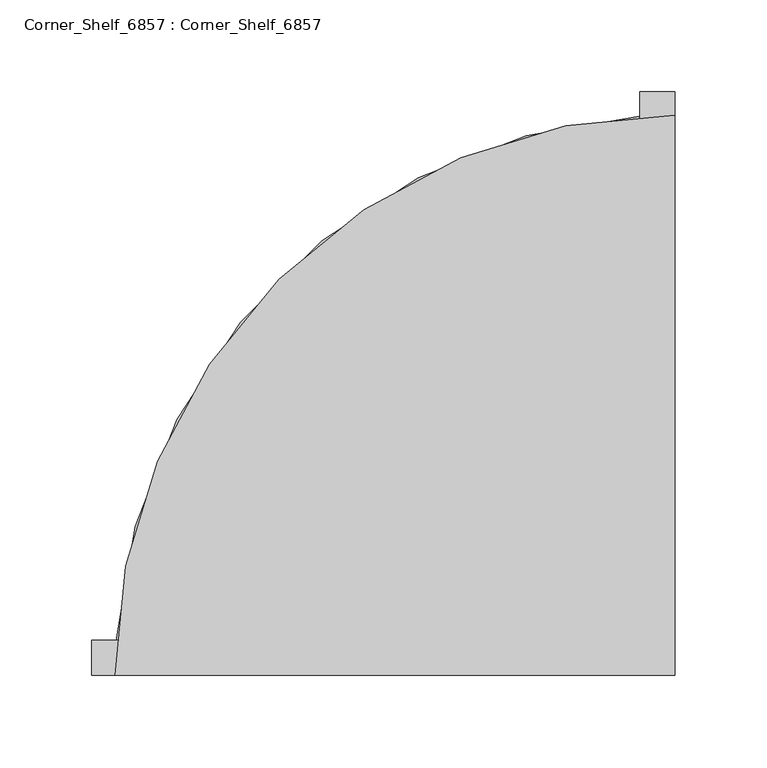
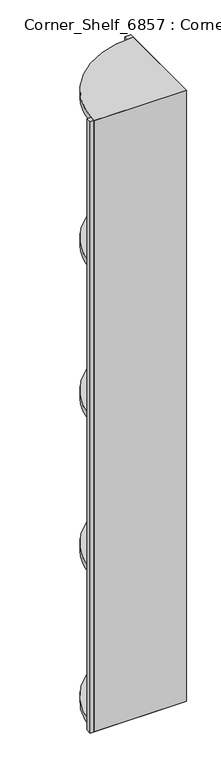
"""IFC4 building model written with IfcOpenShell, lengths in millimetres: furniture geometry, Corner_Shelf_6857 : Corner_Shelf_6857."""

from ifc_helpers import new_model, si_unit, frame, origin, place, context, project, spatial, circle_curve, faceted_brep, source, transform, mapped, element, save
from ifc_brep_helpers import plane_surface, cylinder_surface, advanced_brep


def corner_shelf_6857_corner_shelf_6857_70984909(model_context):
    return source(origin(), model_context, "Body", "SolidModel", [
        advanced_brep(
        [(0.0, 57.15, 2438.4), (0.0, 361.95, 2438.4), (-304.8, 57.15, 2438.4), (0.0, 57.15, 304.8), (0.0, 361.95, 304.8), (-304.8, 57.15, 304.8), (-19.05, 361.354105, 2419.35), (-304.204105, 76.2, 2419.35), (-304.204105, 76.2, 1924.05), (-19.05, 361.354105, 1924.05), (-19.05, 361.354105, 838.2), (-304.204105, 76.2, 838.2), (-304.204105, 76.2, 323.85), (-19.05, 361.354105, 323.85), (-19.05, 361.354105, 1371.6), (-304.204105, 76.2, 1371.6), (-304.204105, 76.2, 857.25), (-19.05, 361.354105, 857.25), (-19.05, 361.354105, 1905.0), (-304.204105, 76.2, 1905.0), (-304.204105, 76.2, 1390.65), (-19.05, 361.354105, 1390.65), (-19.05, 76.2, 2419.35), (-19.05, 76.2, 1924.05), (-19.05, 76.2, 838.2), (-19.05, 76.2, 323.85), (-19.05, 76.2, 1371.6), (-19.05, 76.2, 857.25), (-19.05, 76.2, 1905.0), (-19.05, 76.2, 1390.65)],
        [
            (0, 1),
            (1, 2, circle_curve(frame((0.0, 57.15, 2438.4), z_axis=(0.0, 0.0, 1.0), x_axis=(1.0, 0.0, 0.0)), 304.8)),
            (2, 0),
            (0, 3),
            (3, 4),
            (4, 1),
            (4, 5, circle_curve(frame((0.0, 57.15, 304.8), z_axis=(0.0, 0.0, 1.0), x_axis=(1.0, 0.0, 0.0)), 304.8)),
            (5, 2),
            (6, 7, circle_curve(frame((0.0, 57.15, 2419.35), z_axis=(0.0, 0.0, 1.0), x_axis=(1.0, 0.0, 0.0)), 304.8)),
            (7, 8),
            (8, 9, circle_curve(frame((0.0, 57.15, 1924.05), z_axis=(0.0, 0.0, -1.0), x_axis=(1.0, 0.0, 0.0)), 304.8)),
            (9, 6),
            (10, 11, circle_curve(frame((0.0, 57.15, 838.2), z_axis=(0.0, 0.0, 1.0), x_axis=(1.0, 0.0, 0.0)), 304.8)),
            (11, 12),
            (12, 13, circle_curve(frame((0.0, 57.15, 323.85), z_axis=(0.0, 0.0, -1.0), x_axis=(1.0, 0.0, 0.0)), 304.8)),
            (13, 10),
            (14, 15, circle_curve(frame((0.0, 57.15, 1371.6), z_axis=(0.0, 0.0, 1.0), x_axis=(1.0, 0.0, 0.0)), 304.8)),
            (15, 16),
            (16, 17, circle_curve(frame((0.0, 57.15, 857.25), z_axis=(0.0, 0.0, -1.0), x_axis=(1.0, 0.0, 0.0)), 304.8)),
            (17, 14),
            (18, 19, circle_curve(frame((0.0, 57.15, 1905.0), z_axis=(0.0, 0.0, 1.0), x_axis=(1.0, 0.0, 0.0)), 304.8)),
            (19, 20),
            (20, 21, circle_curve(frame((0.0, 57.15, 1390.65), z_axis=(0.0, 0.0, -1.0), x_axis=(1.0, 0.0, 0.0)), 304.8)),
            (21, 18),
            (5, 3),
            (22, 7),
            (6, 22),
            (22, 23),
            (23, 8),
            (9, 23),
            (24, 11),
            (10, 24),
            (25, 13),
            (12, 25),
            (25, 24),
            (26, 15),
            (14, 26),
            (27, 17),
            (16, 27),
            (27, 26),
            (28, 19),
            (18, 28),
            (29, 21),
            (20, 29),
            (29, 28),
        ],
        [
            plane_surface(frame((0.0, 361.95, 2438.4), z_axis=(0.0, 0.0, 1.0), x_axis=(0.0, 1.0, 0.0))),
            plane_surface(frame((0.0, 57.15, 2438.4), z_axis=(1.0, 0.0, 0.0), x_axis=(0.0, 0.0, -1.0))),
            cylinder_surface(frame((0.0, 57.15, 304.8), z_axis=(0.0, 0.0, 1.0), x_axis=(1.0, 0.0, 0.0)), 304.8),
            plane_surface(frame((-304.8, 57.15, 2438.4), z_axis=(0.0, -1.0, 0.0), x_axis=(0.0, 0.0, -1.0))),
            plane_surface(frame((-19.05, 381.0, 2419.35), z_axis=(0.0, 0.0, -1.0), x_axis=(0.0, 1.0, 0.0))),
            plane_surface(frame((-323.85, 76.2, 2419.35), z_axis=(0.0, 1.0, 0.0), x_axis=(0.0, 0.0, -1.0))),
            plane_surface(frame((-19.05, 76.2, 2419.35), z_axis=(-1.0, 0.0, 0.0), x_axis=(0.0, 0.0, -1.0))),
            plane_surface(frame((0.0, 361.95, 304.8), z_axis=(0.0, 0.0, -1.0), x_axis=(0.0, -1.0, 0.0))),
            plane_surface(frame((-19.05, 381.0, 838.2), z_axis=(0.0, 0.0, -1.0), x_axis=(0.0, 1.0, 0.0))),
            plane_surface(frame((-19.05, 381.0, 323.85), z_axis=(0.0, 0.0, 1.0), x_axis=(0.0, -1.0, 0.0))),
            plane_surface(frame((-19.05, 76.2, 838.2), z_axis=(-1.0, 0.0, 0.0), x_axis=(0.0, 0.0, -1.0))),
            plane_surface(frame((-323.85, 76.2, 838.2), z_axis=(0.0, 1.0, 0.0), x_axis=(0.0, 0.0, -1.0))),
            plane_surface(frame((-19.05, 381.0, 1371.6), z_axis=(0.0, 0.0, -1.0), x_axis=(0.0, 1.0, 0.0))),
            plane_surface(frame((-19.05, 381.0, 857.25), z_axis=(0.0, 0.0, 1.0), x_axis=(0.0, -1.0, 0.0))),
            plane_surface(frame((-19.05, 76.2, 1371.6), z_axis=(-1.0, 0.0, 0.0), x_axis=(0.0, 0.0, -1.0))),
            plane_surface(frame((-323.85, 76.2, 1371.6), z_axis=(0.0, 1.0, 0.0), x_axis=(0.0, 0.0, -1.0))),
            plane_surface(frame((-19.05, 381.0, 1905.0), z_axis=(0.0, 0.0, -1.0), x_axis=(0.0, 1.0, 0.0))),
            plane_surface(frame((-19.05, 381.0, 1390.65), z_axis=(0.0, 0.0, 1.0), x_axis=(0.0, -1.0, 0.0))),
            plane_surface(frame((-19.05, 76.2, 1905.0), z_axis=(-1.0, 0.0, 0.0), x_axis=(0.0, 0.0, -1.0))),
            plane_surface(frame((-323.85, 76.2, 1905.0), z_axis=(0.0, 1.0, 0.0), x_axis=(0.0, 0.0, -1.0))),
            plane_surface(frame((-19.05, 381.0, 1924.05), z_axis=(0.0, 0.0, 1.0), x_axis=(0.0, -1.0, 0.0))),
        ],
        [
            (0, [[1, 2, 3]]),
            (1, [[-1, 4, 5, 6]]),
            (2, [[-2, -6, 7, 8], [9, 10, 11, 12], [13, 14, 15, 16], [17, 18, 19, 20], [21, 22, 23, 24]]),
            (3, [[-3, -8, 25, -4]]),
            (4, [[26, -9, 27]]),
            (5, [[28, 29, -10, -26]]),
            (6, [[-28, -27, -12, 30]]),
            (7, [[-25, -7, -5]]),
            (8, [[31, -13, 32]]),
            (9, [[33, -15, 34]]),
            (10, [[35, -32, -16, -33]]),
            (11, [[-35, -34, -14, -31]]),
            (12, [[36, -17, 37]]),
            (13, [[38, -19, 39]]),
            (14, [[40, -37, -20, -38]]),
            (15, [[-40, -39, -18, -36]]),
            (16, [[41, -21, 42]]),
            (17, [[43, -23, 44]]),
            (18, [[45, -42, -24, -43]]),
            (19, [[-45, -44, -22, -41]]),
            (20, [[-30, -11, -29]]),
        ],
    ),
        faceted_brep([(-19.05, 374.65, 2438.4), (-19.05, 76.2, 2438.4), (-317.5, 76.2, 2438.4), (-317.5, 57.15, 2438.4), (0.0, 57.15, 2438.4), (0.0, 374.65, 2438.4), (-19.05, 374.65, 2419.35), (-19.05, 374.65, 1924.05), (-19.05, 374.65, 1905.0), (-19.05, 374.65, 1390.65), (-19.05, 374.65, 1371.6), (-19.05, 374.65, 857.25), (-19.05, 374.65, 838.2), (-19.05, 374.65, 323.85), (-19.05, 374.65, 304.8), (-19.05, 76.2, 304.8), (-19.05, 76.2, 323.85), (-19.05, 76.2, 838.2), (-19.05, 76.2, 857.25), (-19.05, 76.2, 1371.6), (-19.05, 76.2, 1390.65), (-19.05, 76.2, 1905.0), (-19.05, 76.2, 1924.05), (-19.05, 76.2, 2419.35), (-317.5, 76.2, 304.8), (-317.5, 76.2, 323.85), (-317.5, 76.2, 838.2), (-317.5, 76.2, 857.25), (-317.5, 76.2, 1371.6), (-317.5, 76.2, 1390.65), (-317.5, 76.2, 1905.0), (-317.5, 76.2, 1924.05), (-317.5, 76.2, 2419.35), (-317.5, 57.15, 304.8), (0.0, 57.15, 304.8), (0.0, 374.65, 304.8)], [[[0, 1, 2, 3, 4, 5]], [[1, 0, 6, 7, 8, 9, 10, 11, 12, 13, 14, 15, 16, 17, 18, 19, 20, 21, 22, 23]], [[2, 1, 23, 22, 21, 20, 19, 18, 17, 16, 15, 24, 25, 26, 27, 28, 29, 30, 31, 32]], [[3, 2, 32, 31, 30, 29, 28, 27, 26, 25, 24, 33]], [[4, 3, 33, 34]], [[5, 4, 34, 35]], [[0, 5, 35, 14, 13, 12, 11, 10, 9, 8, 7, 6]], [[14, 35, 34, 33, 24, 15]]]),
    ])


if __name__ == "__main__":
    model = new_model("IFC4")
    model_context = context("Model", 3, world=origin())
    ifc_project = project(units=[si_unit("LENGTHUNIT", "METRE", prefix="MILLI")], contexts=[model_context])
    site = spatial("IfcSite", under=ifc_project)
    building = spatial("IfcBuilding", under=site)
    placement = place(None, origin())
    corner_shelf_6857_corner_shelf_6857_shape = corner_shelf_6857_corner_shelf_6857_70984909(model_context)
    element("IfcFurniture", 1, ObjectType="Corner_Shelf_6857 : Corner_Shelf_6857", at=placement, inside=building, context=model_context, shape_type="MappedRepresentation", body=[
        mapped(corner_shelf_6857_corner_shelf_6857_shape, transform((0.0, 0.0, 0.0), x_axis=(1.0, 0.0, 0.0), y_axis=(0.0, 1.0, 0.0), z_axis=(0.0, 0.0, 1.0))),
    ])
    save(model, "model.ifc")
